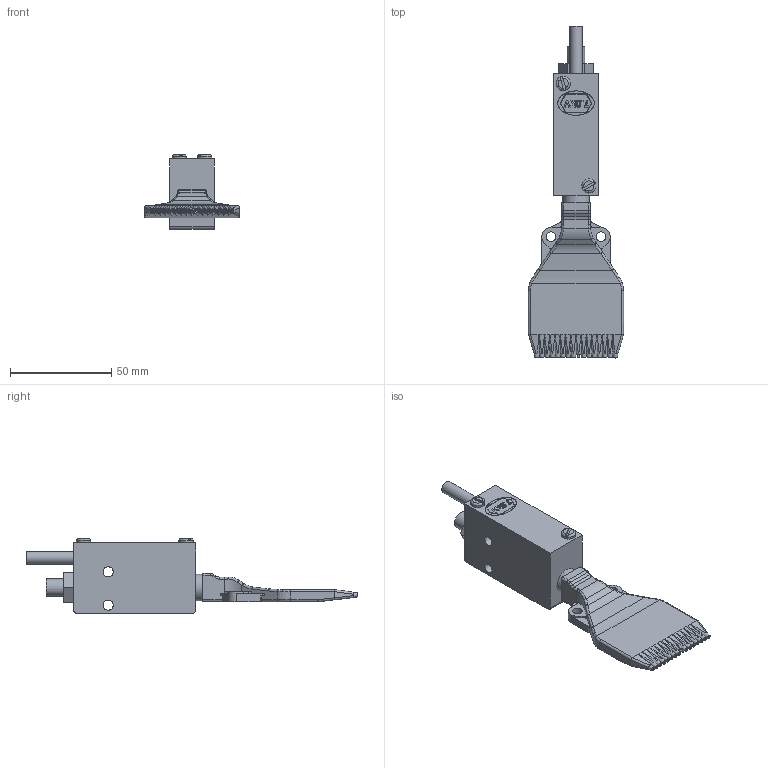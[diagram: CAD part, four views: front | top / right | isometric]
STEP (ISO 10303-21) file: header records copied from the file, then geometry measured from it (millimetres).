
FILE_DESCRIPTION(('ONLY FOR INFORMATION','HiCAD-Model','HiCAD-STEP-TRANSLATION'),'2;1');
FILE_NAME('Q:/##','2010-00-00',('D&E Department'),('Simco (Nederland) B.V.','Aalsvoort 74','NL-7241 MB LOCHEM','www.simco-ion.nl'),' HiCAD 2010, Step 1501.0 ','HiCAD 2010','confidential');
FILE_SCHEMA(('AUTOMOTIVE_DESIGN { 1 2 10303 214 0 1 1 1 }'));
Length unit declared in the file: millimetre
Products named in the file (6): SIMCO_FLAT_1; ASSEMBLY FLAT_1_ASSEMBLY; CABLE; BODY; NOZZLE; AIR_CONNECTION
Assembly tree (5 placements, depth 3):
  SIMCO_FLAT_1
    ASSEMBLY FLAT_1_ASSEMBLY
      CABLE
      BODY
      NOZZLE
      AIR_CONNECTION
Bounding box: 47 x 164.1 x 36.9 mm (x, y, z)
Volume: 60050.3 mm3; surface area: 25848.3 mm2
Topology: 6 solids, 8 shells, 977 faces, 2751 edges, 1801 vertices
Faces by surface type: plane 747, cylinder 184, cone 20, torus 16, bspline 10
Full cylindrical faces by diameter (mm): 0.8 x1, 1.1 x32, 2.512 x4, 3.141 x1, 3.485 x2, 4 x1, 4.3 x2, 4.5 x1, 4.8 x2, 5 x2, 6 x1, 6.2 x1, 6.5 x1, 7 x2, 8.566 x2, 9 x1, 10 x1, 11.445 x1, 13.157 x2
Entity records: 50642 total; most frequent: CARTESIAN_POINT 8429, ORIENTED_EDGE 5192, DIRECTION 4935, COLOUR_RGB 3132, PRESENTATION_STYLE_ASSIGNMENT 3132, OVER_RIDING_STYLED_ITEM 3128, EDGE_CURVE 2596, CURVE_STYLE 2550
